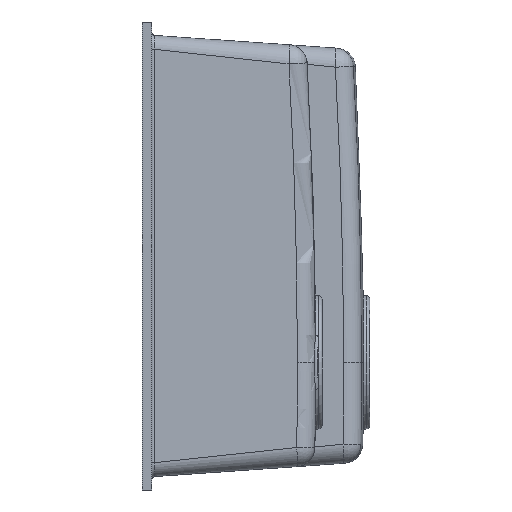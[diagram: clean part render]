
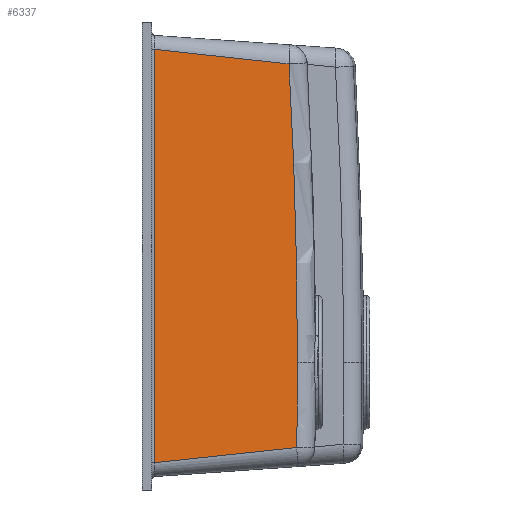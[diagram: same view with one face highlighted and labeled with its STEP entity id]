
A CAD part, left-side view. The second image highlights one B-rep face of the part: STEP entity #6337.
In plain terms, the highlighted planar face has unit normal (-0.998, -0.07, 0).
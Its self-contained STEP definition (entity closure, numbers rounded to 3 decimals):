
#88 = CARTESIAN_POINT ( 'NONE',  ( -260.981, -100.655, -168.025 ) ) ;
#218 = CIRCLE ( 'NONE', #4757, 4973.311 ) ;
#507 = CARTESIAN_POINT ( 'NONE',  ( -267.195, -11.791, 79.706 ) ) ;
#667 = FACE_OUTER_BOUND ( 'NONE', #4721, .T. ) ;
#966 = VERTEX_POINT ( 'NONE', #1009 ) ;
#1009 = CARTESIAN_POINT ( 'NONE',  ( -257.862, -145.256, -164.906 ) ) ;
#1135 = CARTESIAN_POINT ( 'NONE',  ( -267.981, -0.558, -185. ) ) ;
#1215 = DIRECTION ( 'NONE',  ( 0.998, 0.07, 0. ) ) ;
#1413 = CARTESIAN_POINT ( 'NONE',  ( -264.079, -56.346, -175.348 ) ) ;
#1614 = CARTESIAN_POINT ( 'NONE',  ( -258.369, -138.004, 195.413 ) ) ;
#1954 = CARTESIAN_POINT ( 'NONE',  ( -267.195, -11.791, -179.137 ) ) ;
#2025 = CARTESIAN_POINT ( 'NONE',  ( -267.195, -11.791, 209.127 ) ) ;
#2041 = CARTESIAN_POINT ( 'NONE',  ( -267.195, -11.791, 209.127 ) ) ;
#2045 = CARTESIAN_POINT ( 'NONE',  ( -264.249, -53.926, 205.479 ) ) ;
#2384 = ORIENTED_EDGE ( 'NONE', *, *, #4155, .F. ) ;
#2608 = CARTESIAN_POINT ( 'NONE',  ( -604.738, 4815.299, -85. ) ) ;
#2628 = EDGE_CURVE ( 'NONE', #3779, #966, #6147, .T. ) ;
#2850 = EDGE_CURVE ( 'NONE', #966, #7627, #7802, .T. ) ;
#3040 = CARTESIAN_POINT ( 'NONE',  ( -257.817, -145.897, -85. ) ) ;
#3084 = DIRECTION ( 'NONE',  ( 0.07, -0.998, 0. ) ) ;
#3118 = CARTESIAN_POINT ( 'NONE',  ( -267.195, -11.791, -179.137 ) ) ;
#3254 = DIRECTION ( 'NONE',  ( 0.07, -0.998, 0. ) ) ;
#3341 = CARTESIAN_POINT ( 'NONE',  ( -261.319, -95.82, 198.363 ) ) ;
#3364 = B_SPLINE_CURVE_WITH_KNOTS ( 'NONE', 3,
 ( #5013, #507, #6955, #3118 ),
 .UNSPECIFIED., .F., .F.,
 ( 4, 4 ),
 ( 0., 1. ),
 .UNSPECIFIED. ) ;
#3779 = VERTEX_POINT ( 'NONE', #3040 ) ;
#3972 = ORIENTED_EDGE ( 'NONE', *, *, #6368, .T. ) ;
#4155 = EDGE_CURVE ( 'NONE', #4895, #3779, #218, .T. ) ;
#4606 = CARTESIAN_POINT ( 'NONE',  ( -257.862, -145.256, -164.906 ) ) ;
#4721 = EDGE_LOOP ( 'NONE', ( #4915, #3972, #5229, #5982, #2384 ) ) ;
#4757 = AXIS2_PLACEMENT_3D ( 'NONE', #2608, #7100, #3254 ) ;
#4895 = VERTEX_POINT ( 'NONE', #1614 ) ;
#4915 = ORIENTED_EDGE ( 'NONE', *, *, #8156, .F. ) ;
#5013 = CARTESIAN_POINT ( 'NONE',  ( -267.195, -11.791, 209.127 ) ) ;
#5054 = CARTESIAN_POINT ( 'NONE',  ( -604.738, 4815.299, -85. ) ) ;
#5229 = ORIENTED_EDGE ( 'NONE', *, *, #2850, .F. ) ;
#5700 = DIRECTION ( 'NONE',  ( 0.07, -0.998, 0. ) ) ;
#5881 = CARTESIAN_POINT ( 'NONE',  ( -267.195, -11.791, -179.137 ) ) ;
#5982 = ORIENTED_EDGE ( 'NONE', *, *, #2628, .F. ) ;
#5983 = AXIS2_PLACEMENT_3D ( 'NONE', #5054, #1215, #5700 ) ;
#6147 = CIRCLE ( 'NONE', #5983, 4973.311 ) ;
#6161 = VERTEX_POINT ( 'NONE', #2041 ) ;
#6272 = PLANE ( 'NONE',  #7089 ) ;
#6337 = ADVANCED_FACE ( 'NONE', ( #667 ), #6272, .T. ) ;
#6368 = EDGE_CURVE ( 'NONE', #6161, #7627, #3364, .T. ) ;
#6933 = DIRECTION ( 'NONE',  ( -0.998, -0.07, 0. ) ) ;
#6955 = CARTESIAN_POINT ( 'NONE',  ( -267.195, -11.791, -49.715 ) ) ;
#7089 = AXIS2_PLACEMENT_3D ( 'NONE', #1135, #6933, #3084 ) ;
#7100 = DIRECTION ( 'NONE',  ( 0.998, 0.07, 0. ) ) ;
#7431 = B_SPLINE_CURVE_WITH_KNOTS ( 'NONE', 3,
 ( #2025, #2045, #3341, #7839 ),
 .UNSPECIFIED., .F., .F.,
 ( 4, 4 ),
 ( 0.695, 1. ),
 .UNSPECIFIED. ) ;
#7627 = VERTEX_POINT ( 'NONE', #1954 ) ;
#7802 = B_SPLINE_CURVE_WITH_KNOTS ( 'NONE', 3,
 ( #4606, #88, #1413, #5881 ),
 .UNSPECIFIED., .F., .F.,
 ( 4, 4 ),
 ( 0., 0.307 ),
 .UNSPECIFIED. ) ;
#7839 = CARTESIAN_POINT ( 'NONE',  ( -258.369, -138.004, 195.413 ) ) ;
#8156 = EDGE_CURVE ( 'NONE', #6161, #4895, #7431, .T. ) ;
